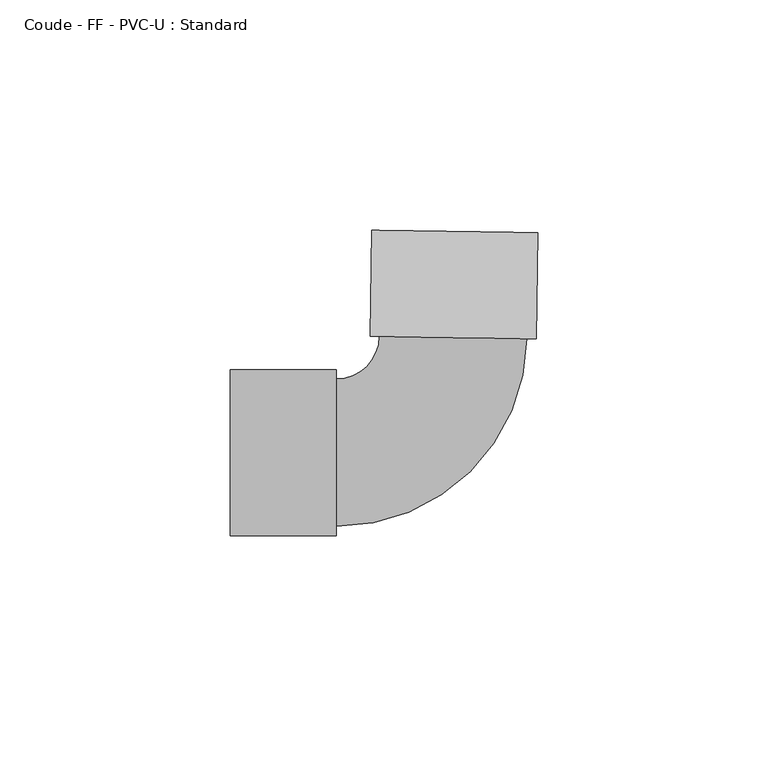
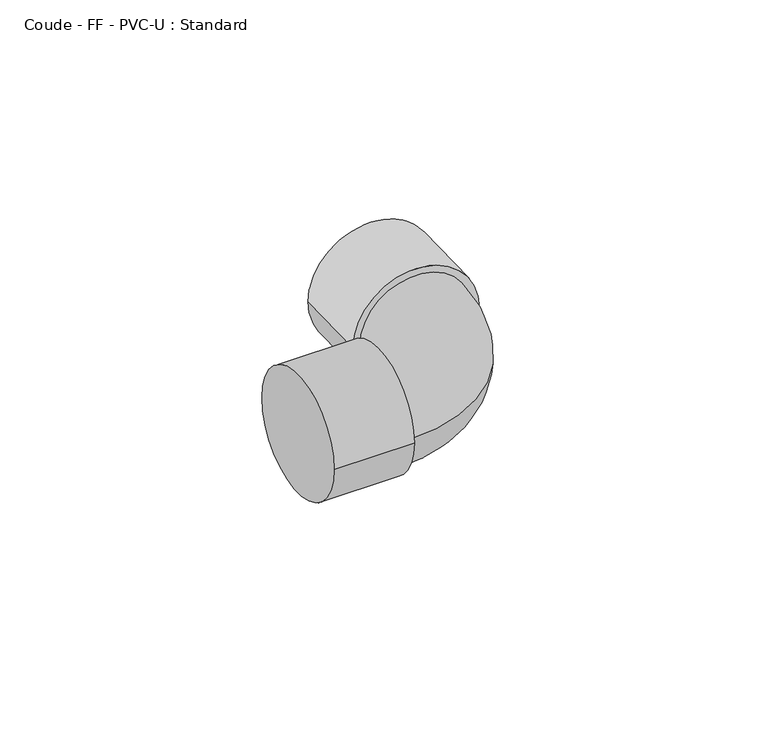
"""IFC4 building model written with IfcOpenShell, lengths in millimetres: pipe fitting geometry, Coude - FF - PVC-U : Standard."""

from ifc_helpers import new_model, si_unit, point, frame, origin, place, context, project, spatial, circle_curve, ellipse_curve, trimmed, source, transform, mapped, element, save
from ifc_brep_helpers import plane_surface, cylinder_surface, revolved_surface, advanced_brep


def coude_ff_pvc_u_standard_e91ffdd8(model_context):
    return source(origin(), model_context, "Body", "AdvancedBrep", [
        advanced_brep(
        [(-48.0, -18.0, 0.0), (-48.0, 18.0, 0.0), (-25.0, -18.0, 0.0), (-25.0, 18.0, 0.0), (-25.0, -16.0, 0.0), (-25.0, 16.0, 0.0), (-15.6144545, 25.2425991, 0.0), (16.381777, 24.7515127, 0.0), (18.3815415, 24.7208198, 0.0), (-17.614219, 25.273292, 0.0), (18.7345098, 47.7181112, 0.0), (-17.2612507, 48.2705834, 0.0)],
        [
            (0, 1, circle_curve(frame((-48.0, 0.0, 0.0), z_axis=(-1.0, 0.0, 0.0), x_axis=(0.0, 1.0, 0.0)), 18.0)),
            (1, 0, circle_curve(frame((-48.0, 0.0, 0.0), z_axis=(-1.0, 0.0, 0.0), x_axis=(0.0, 1.0, 0.0)), 18.0)),
            (2, 3, circle_curve(frame((-25.0, 0.0, 0.0), z_axis=(1.0, 0.0, 0.0), x_axis=(0.0, 1.0, 0.0)), 18.0)),
            (3, 2, circle_curve(frame((-25.0, 0.0, 0.0), z_axis=(1.0, 0.0, 0.0), x_axis=(0.0, 1.0, 0.0)), 18.0)),
            (4, 5, circle_curve(frame((-25.0, 0.0, 0.0), z_axis=(-1.0, 0.0, 0.0), x_axis=(0.0, 1.0, 0.0)), 16.0)),
            (5, 4, circle_curve(frame((-25.0, 0.0, 0.0), z_axis=(-1.0, 0.0, 0.0), x_axis=(0.0, 1.0, 0.0)), 16.0)),
            (0, 2),
            (3, 1),
            (6, 5, circle_curve(frame((-25.0, 25.3866509, 0.0), z_axis=(0.0, 0.0, -1.0), x_axis=(0.0, -1.0, 0.0)), 9.3866509)),
            (4, 7, circle_curve(frame((-25.0, 25.3866509, 0.0), z_axis=(0.0, 0.0, 1.0), x_axis=(0.0, -1.0, 0.0)), 41.3866509)),
            (7, 6, circle_curve(frame((0.3836612, 24.9970559, 0.0), z_axis=(-0.015346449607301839, -0.9998822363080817, 0.0), x_axis=(-0.9998822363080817, 0.015346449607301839, 0.0)), 16.0)),
            (6, 7, circle_curve(frame((0.3836612, 24.9970559, 0.0), z_axis=(-0.015346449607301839, -0.9998822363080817, 0.0), x_axis=(-0.9998822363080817, 0.015346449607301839, 0.0)), 16.0)),
            (8, 9, circle_curve(frame((0.3836612, 24.9970559, 0.0), z_axis=(-0.015346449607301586, -0.9998822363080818, 0.0), x_axis=(-0.9998822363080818, 0.015346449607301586, 0.0)), 18.0)),
            (9, 8, circle_curve(frame((0.3836612, 24.9970559, 0.0), z_axis=(-0.015346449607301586, -0.9998822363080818, 0.0), x_axis=(-0.9998822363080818, 0.015346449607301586, 0.0)), 18.0)),
            (10, 11, circle_curve(frame((0.7366296, 47.9943473, 0.0), z_axis=(0.015346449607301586, 0.9998822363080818, 0.0), x_axis=(-0.9998822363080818, 0.015346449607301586, 0.0)), 18.0)),
            (11, 10, circle_curve(frame((0.7366296, 47.9943473, 0.0), z_axis=(0.015346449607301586, 0.9998822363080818, 0.0), x_axis=(-0.9998822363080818, 0.015346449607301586, 0.0)), 18.0)),
            (8, 10),
            (11, 9),
        ],
        [
            plane_surface(frame((-48.0, 0.0, 0.0), z_axis=(-1.0, 0.0, 0.0), x_axis=(0.0, 0.0, 1.0))),
            plane_surface(frame((-25.0, 0.0, 0.0), z_axis=(1.0, 0.0, 0.0), x_axis=(0.0, 0.0, 1.0))),
            cylinder_surface(frame((-48.0, 0.0, 0.0), z_axis=(-1.0, 0.0, 0.0), x_axis=(0.0, 1.0, 0.0)), 18.0),
            revolved_surface(trimmed(ellipse_curve(frame((-25.0, 0.0, 0.0), z_axis=(-1.0, 0.0, 0.0), x_axis=(0.0, 1.0, 0.0)), 16.0, 16.0), [point((-25.0, -16.0, 0.0))], [point((-25.0, 16.0, 0.0))], True, "CARTESIAN"), (-25.0, 25.3866509, 0.0), (0.0, 0.0, 1.0)),
            revolved_surface(trimmed(ellipse_curve(frame((-25.0, 0.0, 0.0), z_axis=(-1.0, 0.0, 0.0), x_axis=(0.0, 1.0, 0.0)), 16.0, 16.0), [point((-25.0, 16.0, 0.0))], [point((-25.0, -16.0, 0.0))], True, "CARTESIAN"), (-25.0, 25.3866509, 0.0), (0.0, 0.0, 1.0)),
            plane_surface(frame((0.3836612, 24.9970559, 0.0), z_axis=(-0.015346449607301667, -0.9998822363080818, 0.0), x_axis=(0.0, 0.0, 1.0))),
            plane_surface(frame((0.7366296, 47.9943473, 0.0), z_axis=(0.015346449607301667, 0.9998822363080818, 0.0), x_axis=(0.0, 0.0, 1.0))),
            cylinder_surface(frame((0.3836612, 24.9970559, 0.0), z_axis=(-0.015346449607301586, -0.9998822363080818, 0.0), x_axis=(-0.9998822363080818, 0.015346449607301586, 0.0)), 18.0),
        ],
        [
            (0, [[1, 2]]),
            (1, [[3, 4], [5, 6]]),
            (2, [[-1, 7, -4, 8]]),
            (2, [[-2, -8, -3, -7]]),
            (3, [[9, -5, 10, 11]]),
            (4, [[-9, 12, -10, -6]]),
            (5, [[13, 14], [-11, -12]]),
            (6, [[15, 16]]),
            (7, [[-13, 17, -16, 18]]),
            (7, [[-14, -18, -15, -17]]),
        ],
    ),
    ])


if __name__ == "__main__":
    model = new_model("IFC4")
    model_context = context("Model", 3, world=origin())
    ifc_project = project(units=[si_unit("LENGTHUNIT", "METRE", prefix="MILLI")], contexts=[model_context])
    site = spatial("IfcSite", under=ifc_project)
    building = spatial("IfcBuilding", under=site)
    placement = place(None, origin())
    coude_ff_pvc_u_standard_shape = coude_ff_pvc_u_standard_e91ffdd8(model_context)
    element("IfcPipeFitting", 1, ObjectType="Coude - FF - PVC-U : Standard", at=placement, inside=building, context=model_context, shape_type="MappedRepresentation", body=[
        mapped(coude_ff_pvc_u_standard_shape, transform((0.0, 0.0, 0.0), x_axis=(1.0, 0.0, 0.0), y_axis=(0.0, 1.0, 0.0), z_axis=(0.0, 0.0, 1.0))),
    ])
    save(model, "model.ifc")
